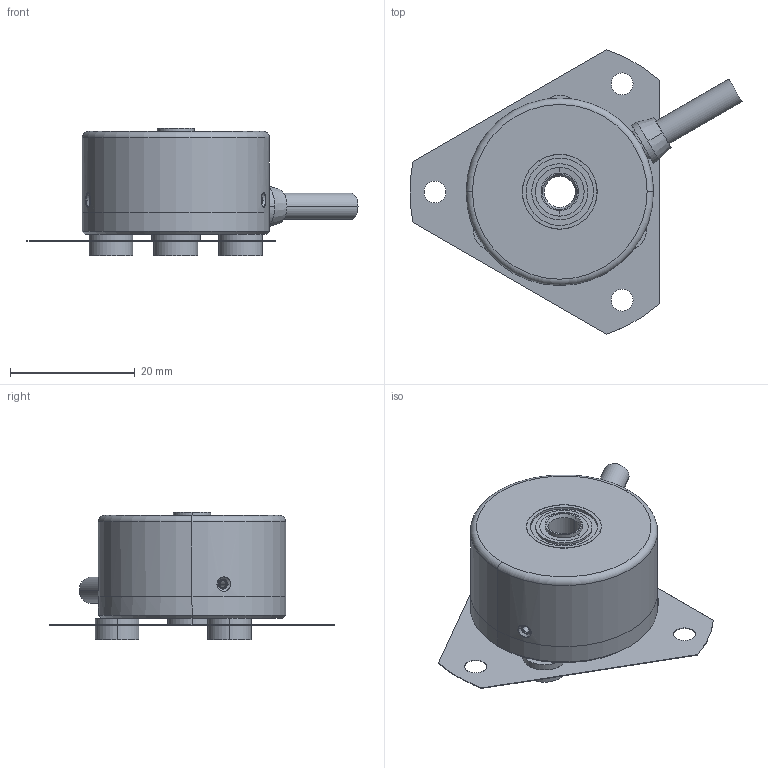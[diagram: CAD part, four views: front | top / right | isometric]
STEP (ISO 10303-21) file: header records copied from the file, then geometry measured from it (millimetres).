
FILE_DESCRIPTION(('STEP AP203'),'1');
FILE_NAME('//192.168.0.150/share/技術部/4.営業関連/1_CAD図面/1_3D/4_step/MEH-19P_平ﾌﾗﾝｼﾞ付.step','2018-04-10T02:18:15',(' '),(' '),'Spatial InterOp 3D',' ',' ');
FILE_SCHEMA(('CONFIG_CONTROL_DESIGN'));
Length unit declared in the file: millimetre
Products named in the file (18): 1; 2; 3; 4; 5; 6; 7; 8; 9; 10; 11; 12; 13; 14; 15; 16; 17; 18
Bounding box: 53.2 x 45.6 x 20.4 mm (x, y, z)
Volume: 5124.6 mm3; surface area: 10746.2 mm2
Topology: 18 solids, 18 shells, 340 faces, 814 edges, 514 vertices
Faces by surface type: cylinder 142, plane 109, cone 81, torus 8
Entity records: 11249 total; most frequent: CARTESIAN_POINT 2300, DIRECTION 1845, ORIENTED_EDGE 1604, EDGE_CURVE 802, AXIS2_PLACEMENT_3D 743, VERTEX_POINT 514, EDGE_LOOP 402, CIRCLE 381
